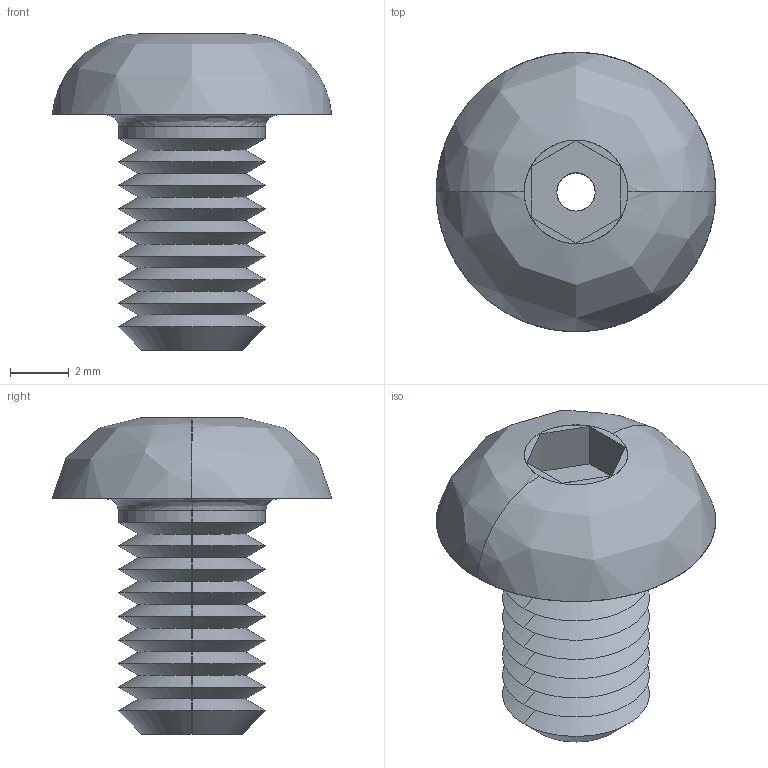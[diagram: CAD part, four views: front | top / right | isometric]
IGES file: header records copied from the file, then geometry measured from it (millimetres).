
Start section: SolidWorks IGES file using analytic representation for surfaces
Global section: file name: C:\Users\liam_\OneDrive\Documents\WORK\Work for WixRoyd\Job Files\J-00019 - Matt Davis CAD Checking\04. CAD Drawings\automotion20190605\P0094_v2\P0094_v2_20190712_IGES\P0094.050-008-A2.igs; native system: SolidWorks 2017; preprocessor: SolidWorks 2017; author: liam_; date: 190712.175328; units: millimetre
Bounding box: 9.5 x 9.5 x 10.75 mm (x, y, z)
Surface area: 420.4 mm2 (no closed solid volume)
Topology: 0 solids, 0 shells, 52 faces, 364 edges, 364 vertices
Faces by surface type: revolution 38, bspline 14
